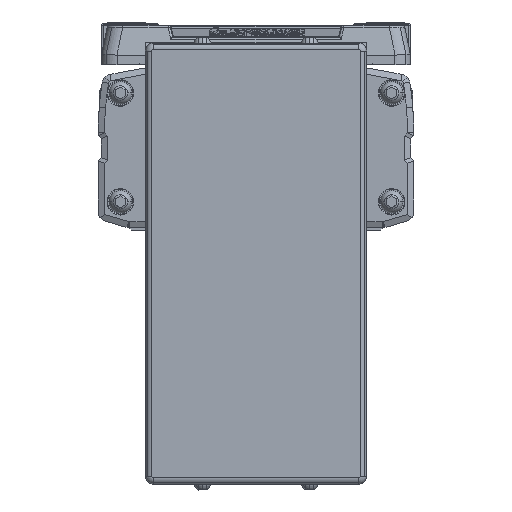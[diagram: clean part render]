
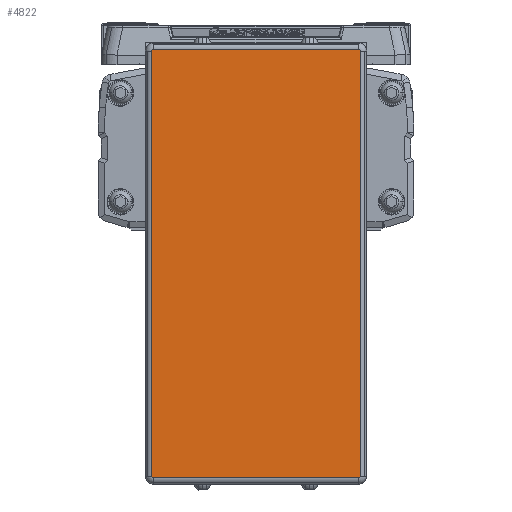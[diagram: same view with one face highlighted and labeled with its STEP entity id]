
A CAD part, left-side view. The second image highlights one B-rep face of the part: STEP entity #4822.
In plain terms, the highlighted planar face has unit normal (-1, 0, 0).
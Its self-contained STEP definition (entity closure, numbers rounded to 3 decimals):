
#4822=ADVANCED_FACE('',(#10385),#10386,.F.);
#10385=FACE_OUTER_BOUND('',#17186,.T.);
#10386=PLANE('',#17187);
#17186=EDGE_LOOP('',(#30916,#30917,#30918,#30919,#30920,#30921,#30922,#30923));
#17187=AXIS2_PLACEMENT_3D('',#30924,#30925,#30926);
#30916=ORIENTED_EDGE('',*,*,#43301,.T.);
#30917=ORIENTED_EDGE('',*,*,#43302,.T.);
#30918=ORIENTED_EDGE('',*,*,#43303,.T.);
#30919=ORIENTED_EDGE('',*,*,#41531,.T.);
#30920=ORIENTED_EDGE('',*,*,#43304,.T.);
#30921=ORIENTED_EDGE('',*,*,#43305,.T.);
#30922=ORIENTED_EDGE('',*,*,#40647,.T.);
#30923=ORIENTED_EDGE('',*,*,#40825,.T.);
#30924=CARTESIAN_POINT('',(-616.0,0.,-41.6));
#30925=DIRECTION('',(1.0,0.,0.));
#30926=DIRECTION('',(0.,0.,1.0));
#40647=EDGE_CURVE('',#49736,#49734,#49737,.T.);
#40825=EDGE_CURVE('',#49734,#49998,#50000,.T.);
#41531=EDGE_CURVE('',#51020,#51017,#51021,.T.);
#43301=EDGE_CURVE('',#49998,#53471,#53472,.T.);
#43302=EDGE_CURVE('',#53471,#53473,#53474,.T.);
#43303=EDGE_CURVE('',#53473,#51020,#53475,.T.);
#43304=EDGE_CURVE('',#51017,#53476,#53477,.T.);
#43305=EDGE_CURVE('',#53476,#49736,#53478,.T.);
#49734=VERTEX_POINT('',#61920);
#49736=VERTEX_POINT('',#61922);
#49737=LINE('',#61923,#61924);
#49998=VERTEX_POINT('',#62310);
#50000=CIRCLE('',#62312,0.5);
#51017=VERTEX_POINT('',#63692);
#51020=VERTEX_POINT('',#63695);
#51021=CIRCLE('',#63696,0.5);
#53471=VERTEX_POINT('',#67135);
#53472=LINE('',#67136,#67137);
#53473=VERTEX_POINT('',#67138);
#53474=CIRCLE('',#67139,0.5);
#53475=LINE('',#67140,#67141);
#53476=VERTEX_POINT('',#67142);
#53477=LINE('',#67143,#67144);
#53478=CIRCLE('',#67145,0.5);
#61920=CARTESIAN_POINT('',(-616.0,-32.55,-109.5));
#61922=CARTESIAN_POINT('',(-616.0,32.55,-109.5));
#61923=CARTESIAN_POINT('',(-616.0,0.,-109.5));
#61924=VECTOR('',#73847,10.0);
#62310=CARTESIAN_POINT('',(-616.0,-33.05,-109.));
#62312=AXIS2_PLACEMENT_3D('',#74069,#74070,#74071);
#63692=CARTESIAN_POINT('',(-616.,33.05,25.8));
#63695=CARTESIAN_POINT('',(-616.,32.55,26.3));
#63696=AXIS2_PLACEMENT_3D('',#74951,#74952,#74953);
#67135=CARTESIAN_POINT('',(-616.,-33.05,25.8));
#67136=CARTESIAN_POINT('',(-616.,-33.05,-41.6));
#67137=VECTOR('',#77141,10.0);
#67138=CARTESIAN_POINT('',(-616.,-32.55,26.3));
#67139=AXIS2_PLACEMENT_3D('',#77142,#77143,#77144);
#67140=CARTESIAN_POINT('',(-616.,0.,26.3));
#67141=VECTOR('',#77145,10.0);
#67142=CARTESIAN_POINT('',(-616.0,33.05,-109.));
#67143=CARTESIAN_POINT('',(-616.0,33.05,-41.6));
#67144=VECTOR('',#77146,10.0);
#67145=AXIS2_PLACEMENT_3D('',#77147,#77148,#77149);
#73847=DIRECTION('',(0.,-1.0,0.));
#74069=CARTESIAN_POINT('',(-616.0,-32.55,-109.));
#74070=DIRECTION('',(-1.0,0.,0.));
#74071=DIRECTION('',(0.,-0.707,-0.707));
#74951=CARTESIAN_POINT('',(-616.,32.55,25.8));
#74952=DIRECTION('',(-1.0,0.,0.));
#74953=DIRECTION('',(0.,0.707,0.707));
#77141=DIRECTION('',(0.,0.,1.0));
#77142=CARTESIAN_POINT('',(-616.,-32.55,25.8));
#77143=DIRECTION('',(-1.0,0.,0.));
#77144=DIRECTION('',(0.,-0.707,0.707));
#77145=DIRECTION('',(0.,1.0,0.));
#77146=DIRECTION('',(0.,0.,-1.0));
#77147=CARTESIAN_POINT('',(-616.0,32.55,-109.));
#77148=DIRECTION('',(-1.0,0.,0.));
#77149=DIRECTION('',(0.,0.707,-0.707));
